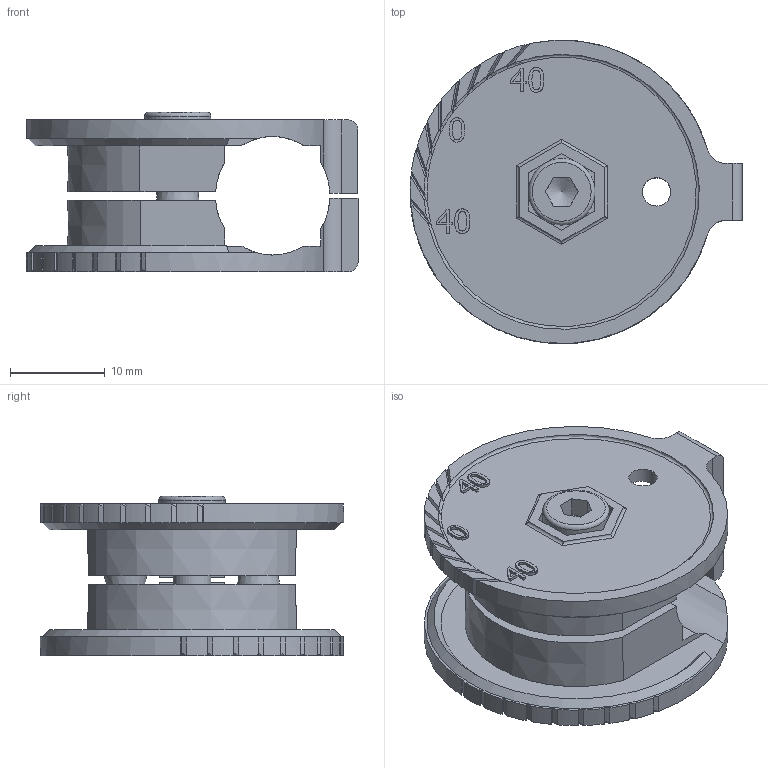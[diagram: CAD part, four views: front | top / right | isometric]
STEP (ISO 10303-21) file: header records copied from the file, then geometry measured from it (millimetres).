
FILE_DESCRIPTION(/* description */ (''),/* implementation_level */ '2;1');
FILE_NAME(/* name */ 'C:\#Vault-WorkDir\Konstruktions-Dokumente\Projekte\F25\Zubehör\153-01155_MBD F25 STP.stp',/* time_stamp */ '2014-11-27T09:52:29+01:00',/* author */ ('sandra.stahl'),/* organization */ (''),/* preprocessor_version */ 'ST-DEVELOPER v15.2',/* originating_system */ 'Autodesk Inventor 2014',/* authorisation */ '');
FILE_SCHEMA (('AUTOMOTIVE_DESIGN { 1 0 10303 214 3 1 1 }'));
Length unit declared in the file: millimetre
Products named in the file (1): GH-ENG-0008215_vereinfacht für export
Bounding box: 35 x 31.98 x 16.8 mm (x, y, z)
Volume: 6761.3 mm3; surface area: 5656.6 mm2
Topology: 4 solids, 4 shells, 388 faces, 954 edges, 605 vertices
Faces by surface type: plane 233, bspline 68, cylinder 51, torus 20, cone 16
Full cylindrical faces by diameter (mm): 3 x2, 3.242 x1, 4 x1, 4.3 x2, 7 x1
Entity records: 12302 total; most frequent: CARTESIAN_POINT 3347, ORIENTED_EDGE 1858, DIRECTION 1512, EDGE_CURVE 929, VERTEX_POINT 599, LINE 572, VECTOR 572, AXIS2_PLACEMENT_3D 470
